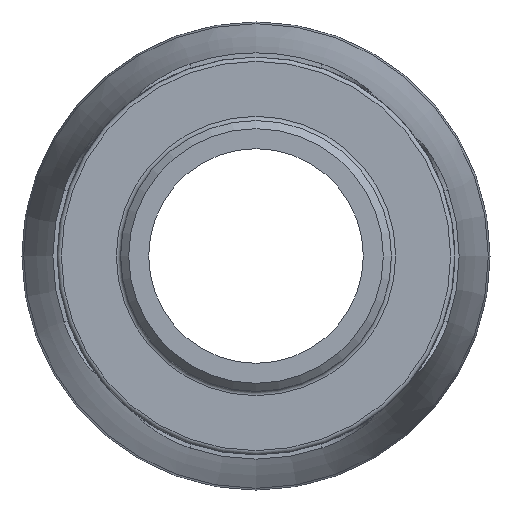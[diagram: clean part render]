
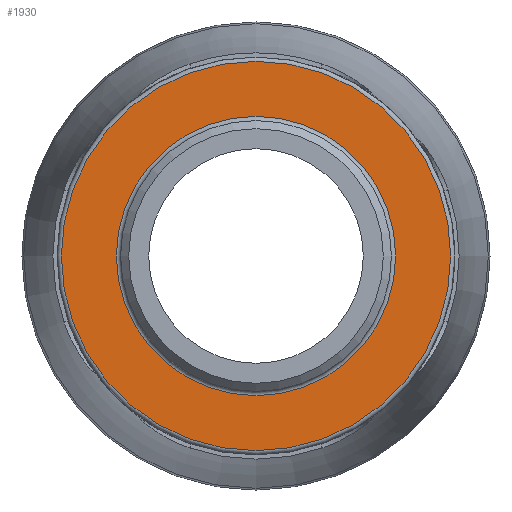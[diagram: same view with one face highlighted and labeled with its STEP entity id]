
A CAD part, left-side view. The second image highlights one B-rep face of the part: STEP entity #1930.
In plain terms, the highlighted planar face has unit normal (-1, 0, 0).
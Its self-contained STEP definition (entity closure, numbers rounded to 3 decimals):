
#101=FACE_BOUND('',#354,.T.);
#121=PLANE('',#2141);
#243=FACE_OUTER_BOUND('',#353,.T.);
#353=EDGE_LOOP('',(#1480,#1481));
#354=EDGE_LOOP('',(#1482,#1483));
#695=CIRCLE('',#2139,30.732);
#696=CIRCLE('',#2140,30.732);
#697=CIRCLE('',#2142,42.85);
#698=CIRCLE('',#2143,42.85);
#842=VERTEX_POINT('',#3414);
#843=VERTEX_POINT('',#3416);
#844=VERTEX_POINT('',#3420);
#845=VERTEX_POINT('',#3421);
#1072=EDGE_CURVE('',#842,#843,#695,.T.);
#1073=EDGE_CURVE('',#843,#842,#696,.T.);
#1074=EDGE_CURVE('',#844,#845,#697,.T.);
#1075=EDGE_CURVE('',#845,#844,#698,.T.);
#1480=ORIENTED_EDGE('',*,*,#1074,.F.);
#1481=ORIENTED_EDGE('',*,*,#1075,.F.);
#1482=ORIENTED_EDGE('',*,*,#1073,.F.);
#1483=ORIENTED_EDGE('',*,*,#1072,.F.);
#1930=ADVANCED_FACE('',(#243,#101),#121,.T.);
#2139=AXIS2_PLACEMENT_3D('',#3417,#2521,#2522);
#2140=AXIS2_PLACEMENT_3D('',#3418,#2523,#2524);
#2141=AXIS2_PLACEMENT_3D('',#3419,#2525,#2526);
#2142=AXIS2_PLACEMENT_3D('',#3422,#2527,#2528);
#2143=AXIS2_PLACEMENT_3D('',#3423,#2529,#2530);
#2521=DIRECTION('center_axis',(-1.,0.,0.));
#2522=DIRECTION('ref_axis',(0.,-1.,0.));
#2523=DIRECTION('center_axis',(-1.,0.,0.));
#2524=DIRECTION('ref_axis',(0.,-1.,0.));
#2525=DIRECTION('center_axis',(-1.,0.,0.));
#2526=DIRECTION('ref_axis',(0.,0.,1.));
#2527=DIRECTION('center_axis',(1.,0.,0.));
#2528=DIRECTION('ref_axis',(0.,-1.,0.));
#2529=DIRECTION('center_axis',(1.,0.,0.));
#2530=DIRECTION('ref_axis',(0.,-1.,0.));
#3414=CARTESIAN_POINT('',(25.,0.,30.732));
#3416=CARTESIAN_POINT('',(25.,30.732,0.));
#3417=CARTESIAN_POINT('Origin',(25.,0.,0.));
#3418=CARTESIAN_POINT('Origin',(25.,0.,0.));
#3419=CARTESIAN_POINT('Origin',(25.,43.775,0.));
#3420=CARTESIAN_POINT('',(25.,42.85,0.));
#3421=CARTESIAN_POINT('',(25.,0.,42.85));
#3422=CARTESIAN_POINT('Origin',(25.,0.,0.));
#3423=CARTESIAN_POINT('Origin',(25.,0.,0.));
